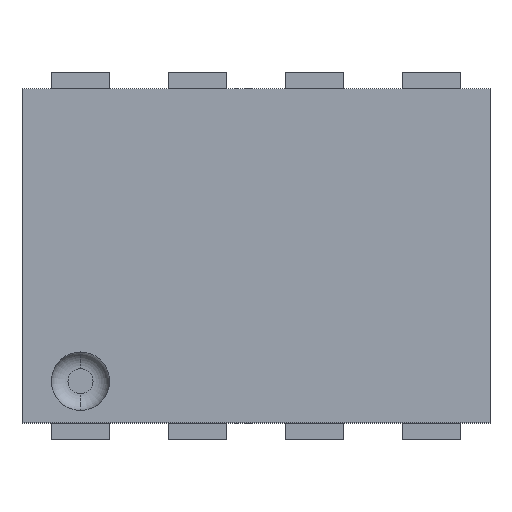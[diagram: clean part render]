
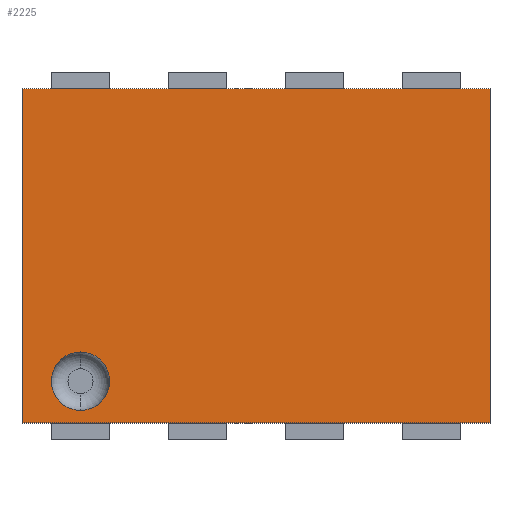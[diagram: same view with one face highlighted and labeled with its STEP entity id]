
A CAD part, top view. The second image highlights one B-rep face of the part: STEP entity #2225.
In plain terms, the highlighted planar face has unit normal (0, 0, 1).
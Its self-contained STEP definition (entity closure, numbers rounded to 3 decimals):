
#2047 = CARTESIAN_POINT ( 'NONE',  ( -0.525, -0.288, 0.4 ) ) ;
#2048 = VERTEX_POINT ( 'NONE', #2047 ) ;
#2056 = CARTESIAN_POINT ( 'NONE',  ( -0.525, -0.463, 0.4 ) ) ;
#2057 = VERTEX_POINT ( 'NONE', #2056 ) ;
#2058 = CARTESIAN_POINT ( 'NONE',  ( -0.525, -0.375, 0.4 ) ) ;
#2059 = DIRECTION ( 'NONE',  ( 0., 0., 1. ) ) ;
#2060 = DIRECTION ( 'NONE',  ( 0., -1., 0. ) ) ;
#2061 = AXIS2_PLACEMENT_3D ( 'NONE', #2058, #2059, #2060 ) ;
#2062 = CIRCLE ( 'NONE', #2061, 0.088) ;
#2063 = EDGE_CURVE ( 'NONE', #2048, #2057, #2062, .T. ) ;
#2090 = CARTESIAN_POINT ( 'NONE',  ( -0.7, -0.5, 0.4 ) ) ;
#2091 = VERTEX_POINT ( 'NONE', #2090 ) ;
#2098 = CARTESIAN_POINT ( 'NONE',  ( -0.7, 0.5, 0.4 ) ) ;
#2099 = VERTEX_POINT ( 'NONE', #2098 ) ;
#2100 = CARTESIAN_POINT ( 'NONE',  ( -0.7, -0.5, 0.4 ) ) ;
#2101 = DIRECTION ( 'NONE',  ( 0., -1., 0. ) ) ;
#2102 = VECTOR ( 'NONE', #2101, 1000. ) ;
#2103 = LINE ( 'NONE', #2100, #2102 ) ;
#2104 = EDGE_CURVE ( 'NONE', #2099, #2091, #2103, .T. ) ;
#2128 = CARTESIAN_POINT ( 'NONE',  ( 0.7, -0.5, 0.4 ) ) ;
#2129 = VERTEX_POINT ( 'NONE', #2128 ) ;
#2136 = CARTESIAN_POINT ( 'NONE',  ( 0.7, -0.5, 0.4 ) ) ;
#2137 = DIRECTION ( 'NONE',  ( 1., 0., 0. ) ) ;
#2138 = VECTOR ( 'NONE', #2137, 1000. ) ;
#2139 = LINE ( 'NONE', #2136, #2138 ) ;
#2140 = EDGE_CURVE ( 'NONE', #2091, #2129, #2139, .T. ) ;
#2159 = CARTESIAN_POINT ( 'NONE',  ( 0.7, 0.5, 0.4 ) ) ;
#2160 = VERTEX_POINT ( 'NONE', #2159 ) ;
#2167 = CARTESIAN_POINT ( 'NONE',  ( 0.7, -0.5, 0.4 ) ) ;
#2168 = DIRECTION ( 'NONE',  ( 0., 1., 0. ) ) ;
#2169 = VECTOR ( 'NONE', #2168, 1000. ) ;
#2170 = LINE ( 'NONE', #2167, #2169 ) ;
#2171 = EDGE_CURVE ( 'NONE', #2129, #2160, #2170, .T. ) ;
#2189 = CARTESIAN_POINT ( 'NONE',  ( 0.7, 0.5, 0.4 ) ) ;
#2190 = DIRECTION ( 'NONE',  ( -1., 0., 0. ) ) ;
#2191 = VECTOR ( 'NONE', #2190, 1000. ) ;
#2192 = LINE ( 'NONE', #2189, #2191 ) ;
#2193 = EDGE_CURVE ( 'NONE', #2160, #2099, #2192, .T. ) ;
#2204 = CARTESIAN_POINT ( 'NONE',  ( -0.525, -0.375, 0.4 ) ) ;
#2205 = DIRECTION ( 'NONE',  ( 0., 0., 1. ) ) ;
#2206 = DIRECTION ( 'NONE',  ( 0., -1., 0. ) ) ;
#2207 = AXIS2_PLACEMENT_3D ( 'NONE', #2204, #2205, #2206 ) ;
#2208 = CIRCLE ( 'NONE', #2207, 0.088) ;
#2209 = EDGE_CURVE ( 'NONE', #2057, #2048, #2208, .T. ) ;
#2210 = ORIENTED_EDGE ( 'NONE', *, *, #2209, .F. ) ;
#2211 = ORIENTED_EDGE ( 'NONE', *, *, #2063, .F. ) ;
#2212 = EDGE_LOOP ( 'NONE', ( #2210, #2211 ) ) ;
#2213 = FACE_BOUND ( 'NONE', #2212, .T. ) ;
#2214 = ORIENTED_EDGE ( 'NONE', *, *, #2104, .T. ) ;
#2215 = ORIENTED_EDGE ( 'NONE', *, *, #2140, .T. ) ;
#2216 = ORIENTED_EDGE ( 'NONE', *, *, #2171, .T. ) ;
#2217 = ORIENTED_EDGE ( 'NONE', *, *, #2193, .T. ) ;
#2218 = EDGE_LOOP ( 'NONE', ( #2214, #2215, #2216, #2217 ) ) ;
#2219 = FACE_OUTER_BOUND ( 'NONE', #2218, .T. ) ;
#2220 = CARTESIAN_POINT ( 'NONE',  ( 0., 0., 0.4 ) ) ;
#2221 = DIRECTION ( 'NONE',  ( 0., 0., 1. ) ) ;
#2222 = DIRECTION ( 'NONE',  ( 0., -1., 0. ) ) ;
#2223 = AXIS2_PLACEMENT_3D ( 'NONE', #2220, #2221, #2222 ) ;
#2224 = PLANE ( 'NONE', #2223 ) ;
#2225 = ADVANCED_FACE ( 'NONE', ( #2213, #2219 ), #2224, .T. ) ;
